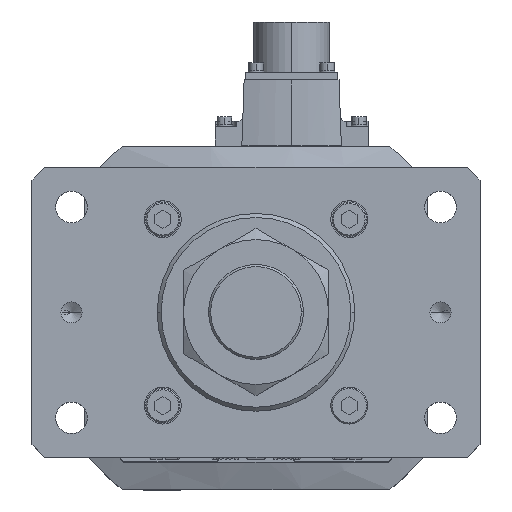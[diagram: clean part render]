
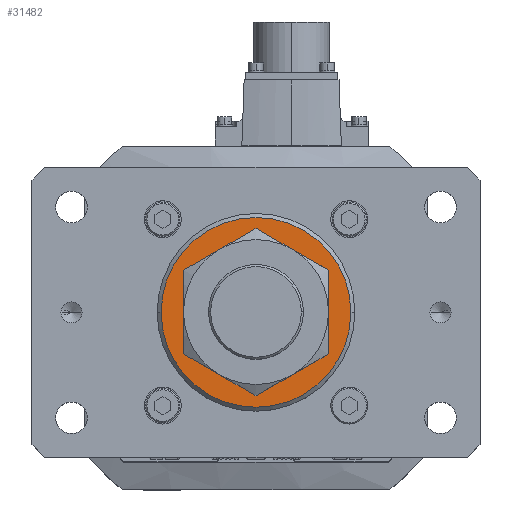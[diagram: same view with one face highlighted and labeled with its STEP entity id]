
A CAD part, top view. The second image highlights one B-rep face of the part: STEP entity #31482.
In plain terms, the highlighted planar face has unit normal (0, 0, 1).
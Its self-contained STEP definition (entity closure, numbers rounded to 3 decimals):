
#3318 = EDGE_CURVE ( 'NONE', #29440, #3499, #19268, .T. ) ;
#3499 = VERTEX_POINT ( 'NONE', #21414 ) ;
#4405 = FACE_OUTER_BOUND ( 'NONE', #17683, .T. ) ;
#4531 = ORIENTED_EDGE ( 'NONE', *, *, #13366, .T. ) ;
#4675 = CARTESIAN_POINT ( 'NONE',  ( 0., 0., 996. ) ) ;
#5004 = AXIS2_PLACEMENT_3D ( 'NONE', #9879, #29853, #21373 ) ;
#7179 = VERTEX_POINT ( 'NONE', #34611 ) ;
#7694 = AXIS2_PLACEMENT_3D ( 'NONE', #18412, #21308, #30151 ) ;
#9879 = CARTESIAN_POINT ( 'NONE',  ( 0., 0., 996. ) ) ;
#10747 = CARTESIAN_POINT ( 'NONE',  ( 36., 0., 996. ) ) ;
#11217 = ORIENTED_EDGE ( 'NONE', *, *, #30973, .T. ) ;
#13366 = EDGE_CURVE ( 'NONE', #35789, #7179, #35998, .T. ) ;
#14314 = DIRECTION ( 'NONE',  ( 0., 0., 1. ) ) ;
#17599 = EDGE_CURVE ( 'NONE', #7179, #35789, #36623, .T. ) ;
#17683 = EDGE_LOOP ( 'NONE', ( #11217, #24507 ) ) ;
#18079 = AXIS2_PLACEMENT_3D ( 'NONE', #36369, #36739, #30841 ) ;
#18412 = CARTESIAN_POINT ( 'NONE',  ( 0., 0., 996. ) ) ;
#18739 = FACE_BOUND ( 'NONE', #23977, .T. ) ;
#19268 = CIRCLE ( 'NONE', #27445, 36. ) ;
#20225 = AXIS2_PLACEMENT_3D ( 'NONE', #4675, #30253, #27135 ) ;
#20840 = ORIENTED_EDGE ( 'NONE', *, *, #17599, .T. ) ;
#21294 = PLANE ( 'NONE',  #20225 ) ;
#21308 = DIRECTION ( 'NONE',  ( 0., 0., -1. ) ) ;
#21373 = DIRECTION ( 'NONE',  ( 1., 0., 0. ) ) ;
#21414 = CARTESIAN_POINT ( 'NONE',  ( -36., 0., 996. ) ) ;
#23977 = EDGE_LOOP ( 'NONE', ( #4531, #20840 ) ) ;
#24507 = ORIENTED_EDGE ( 'NONE', *, *, #3318, .T. ) ;
#27135 = DIRECTION ( 'NONE',  ( 1., 0., 0. ) ) ;
#27445 = AXIS2_PLACEMENT_3D ( 'NONE', #31416, #14314, #34313 ) ;
#29440 = VERTEX_POINT ( 'NONE', #10747 ) ;
#29853 = DIRECTION ( 'NONE',  ( 0., 0., -1. ) ) ;
#30151 = DIRECTION ( 'NONE',  ( 1., 0., 0. ) ) ;
#30253 = DIRECTION ( 'NONE',  ( 0., 0., 1. ) ) ;
#30841 = DIRECTION ( 'NONE',  ( 1., 0., 0. ) ) ;
#30973 = EDGE_CURVE ( 'NONE', #3499, #29440, #33529, .T. ) ;
#31416 = CARTESIAN_POINT ( 'NONE',  ( 0., 0., 996. ) ) ;
#31482 = ADVANCED_FACE ( 'NONE', ( #18739, #4405 ), #21294, .T. ) ;
#33529 = CIRCLE ( 'NONE', #18079, 36. ) ;
#34313 = DIRECTION ( 'NONE',  ( 1., 0., 0. ) ) ;
#34611 = CARTESIAN_POINT ( 'NONE',  ( -23., 0., 996. ) ) ;
#35286 = CARTESIAN_POINT ( 'NONE',  ( 23., 0., 996. ) ) ;
#35789 = VERTEX_POINT ( 'NONE', #35286 ) ;
#35998 = CIRCLE ( 'NONE', #7694, 23. ) ;
#36369 = CARTESIAN_POINT ( 'NONE',  ( 0., 0., 996. ) ) ;
#36623 = CIRCLE ( 'NONE', #5004, 23. ) ;
#36739 = DIRECTION ( 'NONE',  ( 0., 0., 1. ) ) ;
